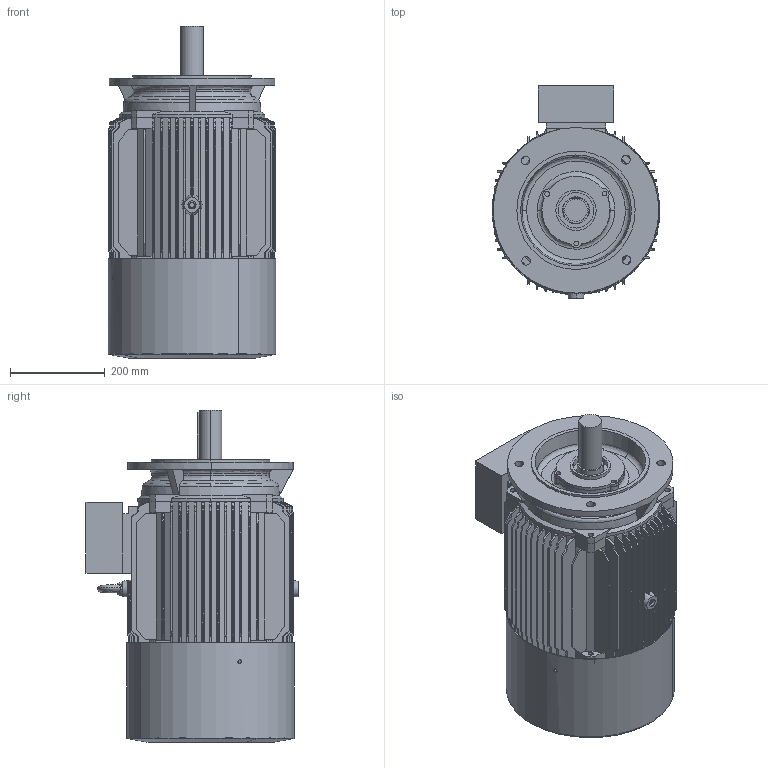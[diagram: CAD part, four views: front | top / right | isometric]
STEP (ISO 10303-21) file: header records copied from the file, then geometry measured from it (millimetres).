
FILE_DESCRIPTION (( 'STEP AP214' ), '1' );
FILE_NAME ('M3-180M-FF-B5.STEP', '2019-05-24T09:52:45', ( '' ), ( '' ), 'SwSTEP 2.0', 'SolidWorks 2012', '' );
FILE_SCHEMA (( 'AUTOMOTIVE_DESIGN' ));
Length unit declared in the file: millimetre
Products named in the file (7): Y2-180-4.6.8Ã¦Íß¦ð-Ô©Ã_-¼+¤; Y2-180MB5+ｷﾎｨ_-ｼ+､; Eyebolts GB_GB_FASTENER_SCREWS_FRS M12_1; Y2-180-4.6.8-ｦﾈﾁﾂ-ｩﾃ_-ｼ+､; Y2-180ﾀiﾍ_-ｼ+､; Y2-180C+ﾎA+ｳﾍﾟｦｰ+ｳ_-ｼ+､; M3-180M-FF-B5
Assembly tree (6 placements, depth 2):
  M3-180M-FF-B5
    Y2-180C+ﾎA+ｳﾍﾟｦｰ+ｳ_-ｼ+､
    Y2-180ﾀiﾍ_-ｼ+､
    Y2-180-4.6.8-ｦﾈﾁﾂ-ｩﾃ_-ｼ+､
    Eyebolts GB_GB_FASTENER_SCREWS_FRS M12_1
    Y2-180MB5+ｷﾎｨ_-ｼ+､
    Y2-180-4.6.8Ã¦Íß¦ð-Ô©Ã_-¼+¤
Bounding box: 354.27 x 448 x 701.5 mm (x, y, z)
Volume: 10123272.6 mm3; surface area: 2612682 mm2
Topology: 7 solids, 7 shells, 845 faces, 2280 edges, 1509 vertices
Faces by surface type: plane 329, cylinder 265, cone 205, bspline 46
Entity records: 33915 total; most frequent: CARTESIAN_POINT 12797, ORIENTED_EDGE 4560, DIRECTION 4085, EDGE_CURVE 2280, AXIS2_PLACEMENT_3D 1547, VERTEX_POINT 1509, LINE 991, VECTOR 991
